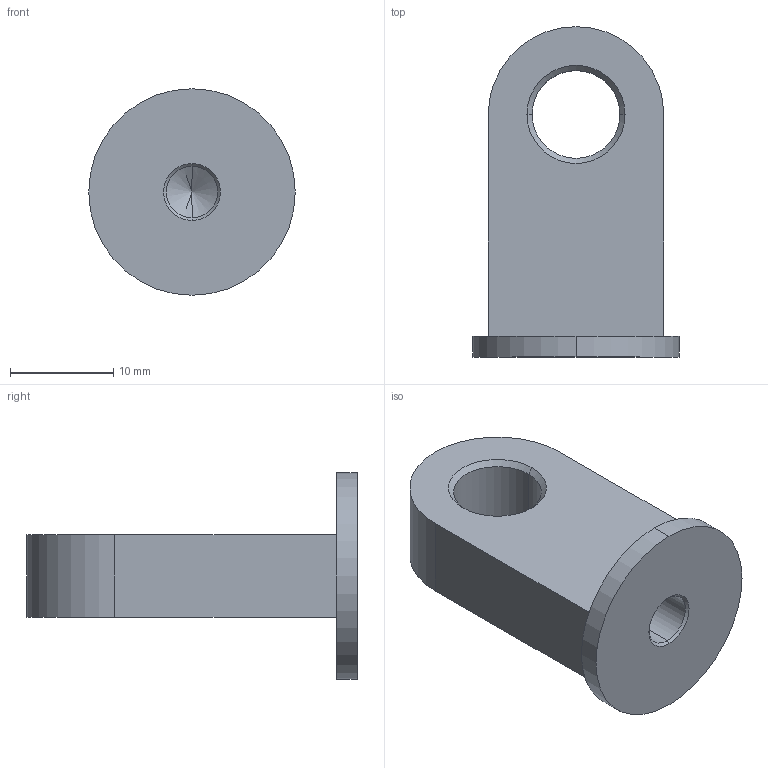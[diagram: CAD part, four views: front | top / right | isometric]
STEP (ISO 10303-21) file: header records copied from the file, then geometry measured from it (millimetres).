
FILE_DESCRIPTION (( 'STEP AP214' ), '1' );
FILE_NAME ('18.06E2STL23.5KNST.STEP', '2017-11-14T09:47:29', ( '' ), ( '' ), 'SwSTEP 2.0', 'SolidWorks 2016', '' );
FILE_SCHEMA (( 'AUTOMOTIVE_DESIGN' ));
Length unit declared in the file: millimetre
Products named in the file (1): 18.06E2STL23.5KNST
Bounding box: 20 x 32 x 20 mm (x, y, z)
Volume: 3704.3 mm3; surface area: 2447.6 mm2
Topology: 1 solids, 1 shells, 21 faces, 46 edges, 27 vertices
Faces by surface type: cone 8, cylinder 7, plane 6
Entity records: 600 total; most frequent: DIRECTION 108, CARTESIAN_POINT 93, ORIENTED_EDGE 88, EDGE_CURVE 44, AXIS2_PLACEMENT_3D 42, VERTEX_POINT 27, EDGE_LOOP 25, VECTOR 24
